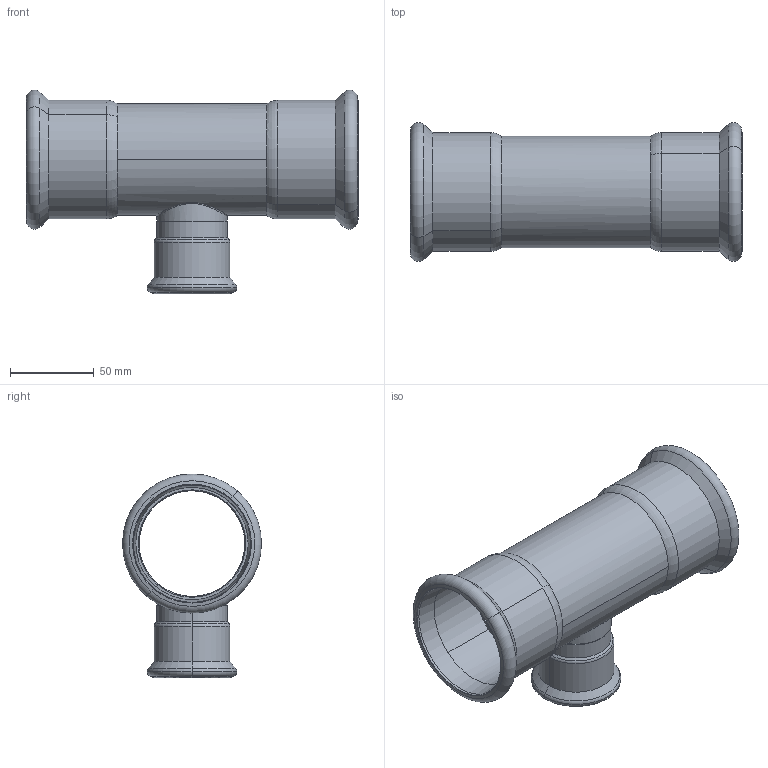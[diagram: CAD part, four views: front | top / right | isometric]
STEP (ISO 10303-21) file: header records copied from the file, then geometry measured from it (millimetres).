
FILE_DESCRIPTION(('CoCreate Modeling STEP Export'),'2;1');
FILE_NAME('C1415 67x42x67.stp','2014-10-23T15:59:47',(''),(''),'CoCreate Modeling STEP processor for AP214 (Solid Model)','CoCreate Modeling 17.00A 17-Jun-2010 (C) Parametric Technology GmbH','');
FILE_SCHEMA(('AUTOMOTIVE_DESIGN { 1 0 10303 214 1 1 1 1 }'));
Length unit declared in the file: millimetre
Products named in the file (2): TSTUK_67x42x67mm
Assembly tree (1 placements, depth 2):
  TSTUK_67x42x67mm
    TSTUK_67x42x67mm
Bounding box: 198.08 x 82.91 x 121.61 mm (x, y, z)
Volume: 112108.9 mm3; surface area: 101077.7 mm2
Topology: 1 solids, 1 shells, 107 faces, 244 edges, 144 vertices
Faces by surface type: cylinder 36, cone 36, torus 24, plane 7, bspline 4
Entity records: 6983 total; most frequent: CARTESIAN_POINT 4973, ORIENTED_EDGE 488, DIRECTION 338, EDGE_CURVE 244, VERTEX_POINT 144, AXIS2_PLACEMENT_3D 133, EDGE_LOOP 116, FACE_OUTER_BOUND 107
